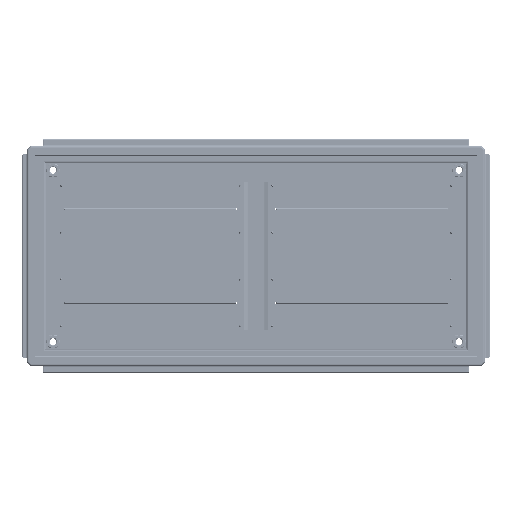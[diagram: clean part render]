
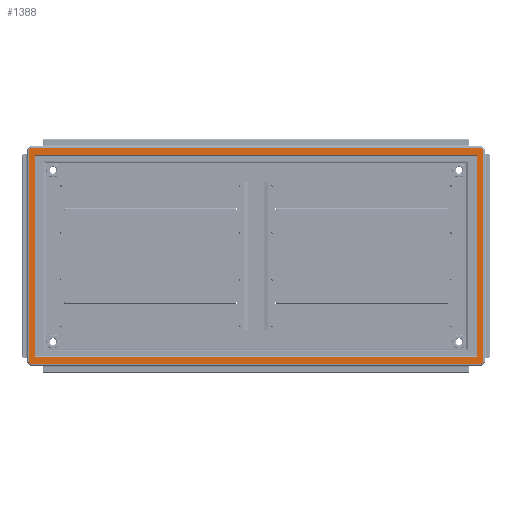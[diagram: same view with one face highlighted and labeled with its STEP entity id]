
A CAD part, front view. The second image highlights one B-rep face of the part: STEP entity #1388.
In plain terms, the highlighted planar face has unit normal (0, -1, 0).
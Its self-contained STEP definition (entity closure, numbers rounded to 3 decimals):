
#1388=ADVANCED_FACE('',(#35087,#35089),#35091,.T.);
#35087=FACE_BOUND('',#35088,.T.);
#35088=EDGE_LOOP('',(#118261,#118262,#118263,#118264,#118265,#118266,#118267,#118268));
#35089=FACE_BOUND('',#35090,.T.);
#35090=EDGE_LOOP('',(#118269,#118270,#118271,#118272));
#35091=PLANE('',#35092);
#35092=AXIS2_PLACEMENT_3D('',#35093,#35094,#35095);
#35093=CARTESIAN_POINT('',(262.2,0.,-564.9));
#35094=DIRECTION('',(0.,-1.,0.));
#35095=DIRECTION('',(0.,0.,1.));
#118261=ORIENTED_EDGE('',*,*,#166963,.F.);
#118262=ORIENTED_EDGE('',*,*,#166964,.F.);
#118263=ORIENTED_EDGE('',*,*,#166965,.T.);
#118264=ORIENTED_EDGE('',*,*,#166966,.T.);
#118265=ORIENTED_EDGE('',*,*,#166967,.F.);
#118266=ORIENTED_EDGE('',*,*,#166968,.T.);
#118267=ORIENTED_EDGE('',*,*,#166969,.T.);
#118268=ORIENTED_EDGE('',*,*,#166970,.F.);
#118269=ORIENTED_EDGE('',*,*,#166971,.T.);
#118270=ORIENTED_EDGE('',*,*,#166972,.T.);
#118271=ORIENTED_EDGE('',*,*,#166973,.F.);
#118272=ORIENTED_EDGE('',*,*,#166974,.T.);
#166963=EDGE_CURVE('',#191406,#191407,#191408,.T.);
#166964=EDGE_CURVE('',#191409,#191406,#191410,.T.);
#166965=EDGE_CURVE('',#191409,#191411,#191412,.T.);
#166966=EDGE_CURVE('',#191411,#191413,#191414,.T.);
#166967=EDGE_CURVE('',#191415,#191413,#191416,.T.);
#166968=EDGE_CURVE('',#191415,#191417,#191418,.T.);
#166969=EDGE_CURVE('',#191417,#191419,#191420,.T.);
#166970=EDGE_CURVE('',#191407,#191419,#191421,.T.);
#166971=EDGE_CURVE('',#191422,#191423,#191424,.T.);
#166972=EDGE_CURVE('',#191423,#191425,#191426,.T.);
#166973=EDGE_CURVE('',#191427,#191425,#191428,.T.);
#166974=EDGE_CURVE('',#191427,#191422,#191429,.T.);
#191406=VERTEX_POINT('',#233374);
#191407=VERTEX_POINT('',#233375);
#191408=LINE('',#233376,#233377);
#191409=VERTEX_POINT('',#233379);
#191410=LINE('',#233380,#233381);
#191411=VERTEX_POINT('',#233383);
#191412=LINE('',#233384,#233385);
#191413=VERTEX_POINT('',#233387);
#191414=LINE('',#233388,#233389);
#191415=VERTEX_POINT('',#233391);
#191416=LINE('',#233392,#233393);
#191417=VERTEX_POINT('',#233395);
#191418=LINE('',#233396,#233397);
#191419=VERTEX_POINT('',#233399);
#191420=LINE('',#233400,#233401);
#191421=LINE('',#233403,#233404);
#191422=VERTEX_POINT('',#233406);
#191423=VERTEX_POINT('',#233407);
#191424=LINE('',#233408,#233409);
#191425=VERTEX_POINT('',#233411);
#191426=LINE('',#233412,#233413);
#191427=VERTEX_POINT('',#233415);
#191428=LINE('',#233416,#233417);
#191429=LINE('',#233419,#233420);
#233374=CARTESIAN_POINT('',(566.716,0.,-3.1));
#233375=CARTESIAN_POINT('',(571.9,0.,-8.284));
#233376=CARTESIAN_POINT('',(566.716,0.,-3.1));
#233377=VECTOR('',#233378,1.);
#233378=DIRECTION('',(0.707,0.,-0.707));
#233379=CARTESIAN_POINT('',(-391.716,0.,-3.1));
#233380=CARTESIAN_POINT('',(-391.716,0.,-3.1));
#233381=VECTOR('',#233382,1.);
#233382=DIRECTION('',(1.,0.,0.));
#233383=CARTESIAN_POINT('',(-396.9,0.,-8.284));
#233384=CARTESIAN_POINT('',(-391.716,0.,-3.1));
#233385=VECTOR('',#233386,1.);
#233386=DIRECTION('',(-0.707,0.,-0.707));
#233387=CARTESIAN_POINT('',(-396.9,0.,-459.716));
#233388=CARTESIAN_POINT('',(-396.9,0.,-8.284));
#233389=VECTOR('',#233390,1.);
#233390=DIRECTION('',(0.,0.,-1.));
#233391=CARTESIAN_POINT('',(-391.716,0.,-464.9));
#233392=CARTESIAN_POINT('',(-391.716,0.,-464.9));
#233393=VECTOR('',#233394,1.);
#233394=DIRECTION('',(-0.707,0.,0.707));
#233395=CARTESIAN_POINT('',(566.716,0.,-464.9));
#233396=CARTESIAN_POINT('',(-391.716,0.,-464.9));
#233397=VECTOR('',#233398,1.);
#233398=DIRECTION('',(1.,0.,0.));
#233399=CARTESIAN_POINT('',(571.9,0.,-459.716));
#233400=CARTESIAN_POINT('',(566.716,0.,-464.9));
#233401=VECTOR('',#233402,1.);
#233402=DIRECTION('',(0.707,0.,0.707));
#233403=CARTESIAN_POINT('',(571.9,0.,-8.284));
#233404=VECTOR('',#233405,1.);
#233405=DIRECTION('',(0.,0.,-1.));
#233406=CARTESIAN_POINT('',(-383.591,0.,-19.899));
#233407=CARTESIAN_POINT('',(558.591,0.,-19.899));
#233408=CARTESIAN_POINT('',(-383.591,0.,-19.899));
#233409=VECTOR('',#233410,1.);
#233410=DIRECTION('',(1.,0.,0.));
#233411=CARTESIAN_POINT('',(558.591,0.,-448.101));
#233412=CARTESIAN_POINT('',(558.591,0.,-19.899));
#233413=VECTOR('',#233414,1.);
#233414=DIRECTION('',(0.,0.,-1.));
#233415=CARTESIAN_POINT('',(-383.591,0.,-448.101));
#233416=CARTESIAN_POINT('',(-383.591,0.,-448.101));
#233417=VECTOR('',#233418,1.);
#233418=DIRECTION('',(1.,0.,0.));
#233419=CARTESIAN_POINT('',(-383.591,0.,-448.101));
#233420=VECTOR('',#233421,1.);
#233421=DIRECTION('',(0.,0.,1.));
